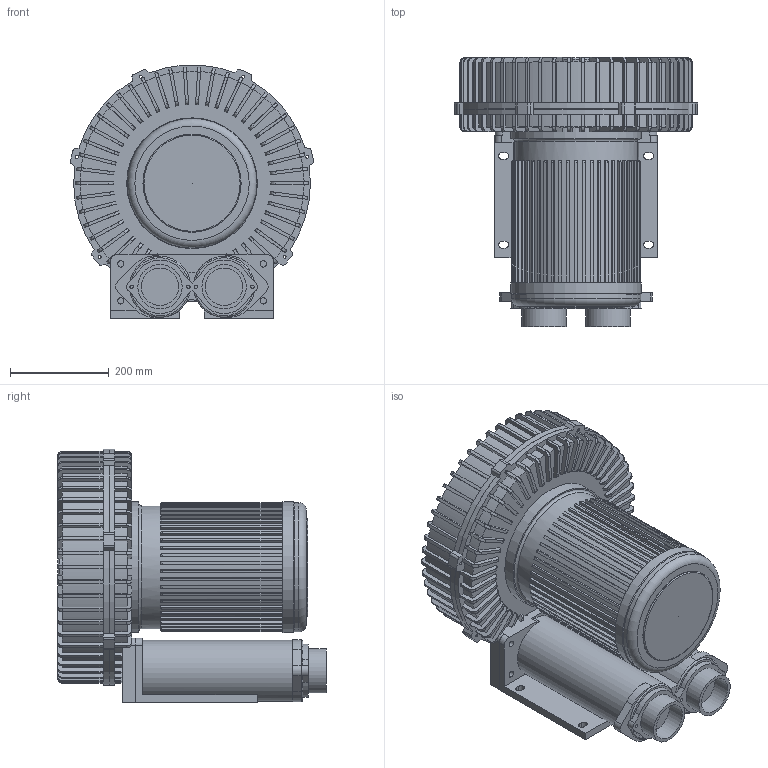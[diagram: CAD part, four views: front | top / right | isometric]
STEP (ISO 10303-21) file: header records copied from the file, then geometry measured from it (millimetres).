
FILE_DESCRIPTION(/* description */ ('Unknown'),/* implementation_level */ '2;1');
FILE_NAME(/* name */ '20201125 RB-7.5',/* time_stamp */ '2020-11-28T23:57:36+08:00',/* author */ ('å¤§èºè¨­è¨æéå¬å¸'),/* organization */ ('Unknown'),/* preprocessor_version */ 'ST-DEVELOPER v16.7',/* originating_system */ 'DEX',/* authorisation */ $);
FILE_SCHEMA (('AUTOMOTIVE_DESIGN {1 0 10303 214 3 1 1}'));
Length unit declared in the file: millimetre
Products named in the file (1): 20201125 RB-7.5
Bounding box: 493.01 x 545 x 514.37 mm (x, y, z)
Volume: 51454092.5 mm3; surface area: 1653033.6 mm2
Topology: 1 solids, 1 shells, 1204 faces, 3535 edges, 2351 vertices
Faces by surface type: plane 604, cylinder 394, torus 96, bspline 94, cone 16
Full cylindrical faces by diameter (mm): 5.998 x6, 7 x4, 13 x4, 75.755 x2, 75.789 x1, 90 x2, 199 x1, 249 x1, 262 x1, 265 x2
Entity records: 43333 total; most frequent: CARTESIAN_POINT 12223, ORIENTED_EDGE 6998, DIRECTION 5994, EDGE_CURVE 3499, VERTEX_POINT 2348, AXIS2_PLACEMENT_3D 2120, LINE 1754, VECTOR 1754
